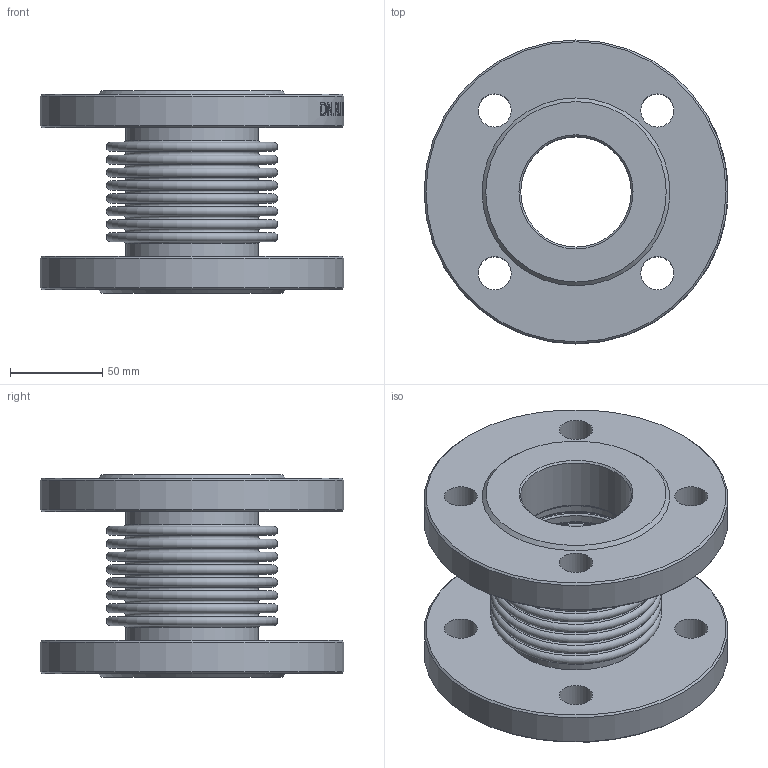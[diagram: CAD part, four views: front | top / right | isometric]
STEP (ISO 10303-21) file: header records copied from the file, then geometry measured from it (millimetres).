
FILE_DESCRIPTION(/* description */ ('D140-02113','CAx-IF Rec.Pracs.---Representation and Presentation of Product Manufacturing Information (PMI)---4.0---2014-10-13'),/* implementation_level */ '2;1');
FILE_NAME(/* name */ '',/* time_stamp */ '2026-04-13T23:22:12+03:00',/* author */ ('DN.RU'),/* organization */ ('DN.RU'),/* preprocessor_version */ 'ST-DEVELOPER v20',/* originating_system */ 'Autodesk Inventor 2025',/* authorisation */ '');
FILE_SCHEMA (('AP242_MANAGED_MODEL_BASED_3D_ENGINEERING_MIM_LF { 1 0 10303 442 1 1 4 }'));
Length unit declared in the file: millimetre
Products named in the file (1): CB-3234-F
Bounding box: 165 x 165 x 110 mm (x, y, z)
Volume: 764581.9 mm3; surface area: 221338.2 mm2
Topology: 1 solids, 1 shells, 306 faces, 738 edges, 491 vertices
Faces by surface type: plane 130, bspline 84, cylinder 41, torus 41, cone 10
Full cylindrical faces by diameter (mm): 18 x8, 60 x2, 68 x6, 72 x2, 78 x2, 165 x2
Entity records: 12173 total; most frequent: CARTESIAN_POINT 4536, ORIENTED_EDGE 1476, DIRECTION 1378, EDGE_CURVE 738, AXIS2_PLACEMENT_3D 548, VERTEX_POINT 491, STYLED_ITEM 392, EDGE_LOOP 381
